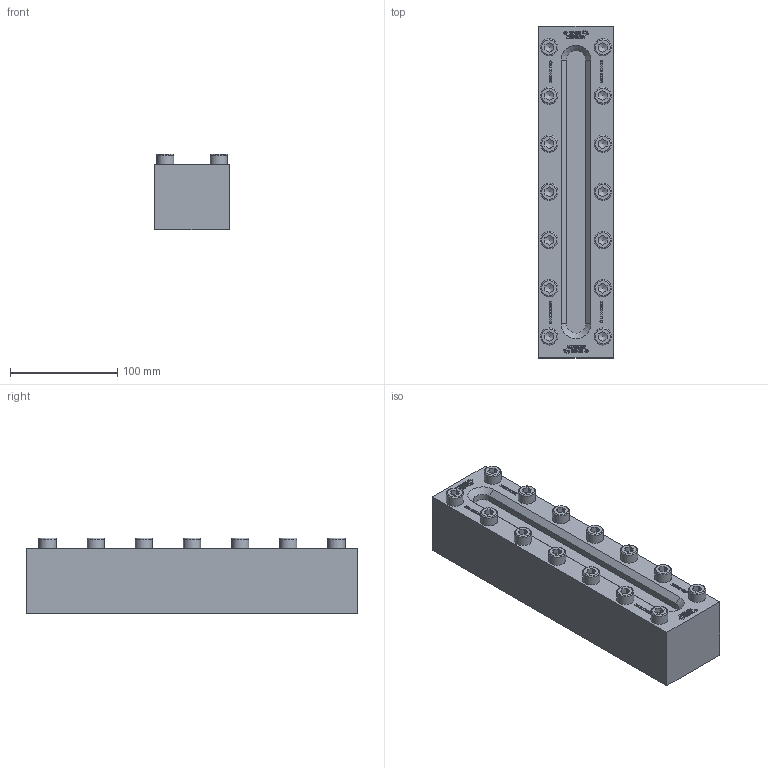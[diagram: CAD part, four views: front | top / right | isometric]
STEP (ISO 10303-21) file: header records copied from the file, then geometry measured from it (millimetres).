
FILE_DESCRIPTION(/* description */ (''),/* implementation_level */ '2;1');
FILE_NAME(/* name */ 'W:\Konstruktion_ACI\330\_Zeichnungen\STEP\ACI-330-310-40.stp',/* time_stamp */ '2022-03-01T17:13:02+01:00',/* author */ ('koslowksi'),/* organization */ (''),/* preprocessor_version */ 'ST-DEVELOPER v16.1',/* originating_system */ 'Autodesk Inventor 2016',/* authorisation */ '');
FILE_SCHEMA (('AUTOMOTIVE_DESIGN { 1 0 10303 214 3 1 1 }'));
Length unit declared in the file: centimetre
Products named in the file (1): ACI-330-310-40.stp
Bounding box: 70 x 310 x 70.9 mm (x, y, z)
Volume: 1194572.5 mm3; surface area: 114085 mm2
Topology: 1 solids, 1 shells, 1256 faces, 3390 edges, 2254 vertices
Faces by surface type: plane 906, bspline 302, cylinder 18, cone 16, torus 14
Full cylindrical faces by diameter (mm): 16 x14
Entity records: 41140 total; most frequent: CARTESIAN_POINT 10897, ORIENTED_EDGE 6640, DIRECTION 4594, EDGE_CURVE 3320, LINE 2580, VECTOR 2580, VERTEX_POINT 2226, EDGE_LOOP 1416
